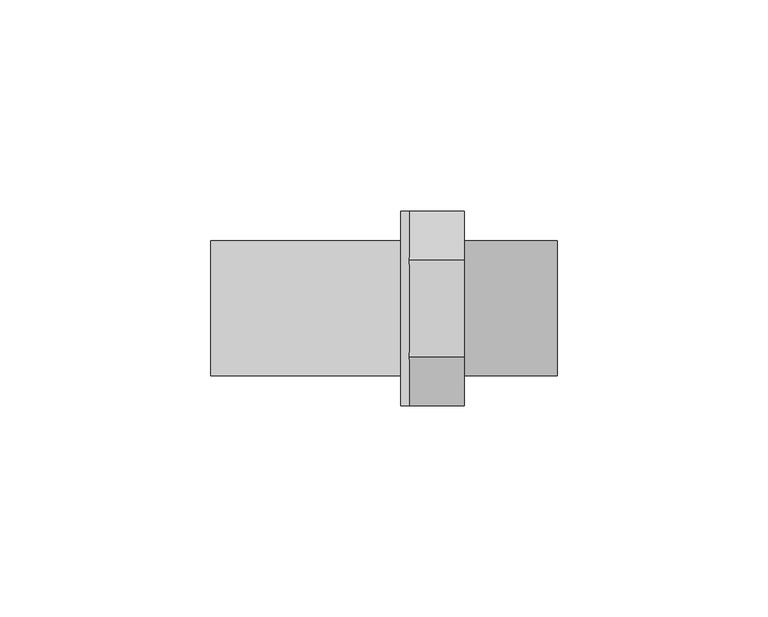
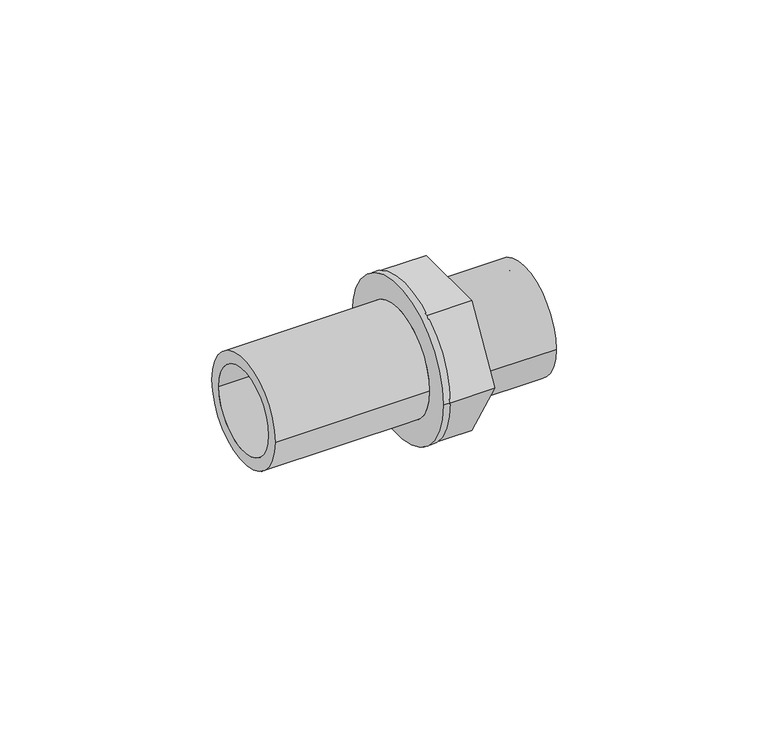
"""IFC4 building model written with IfcOpenShell, lengths in millimetres: pipe fitting geometry, 01011312 : Manguito tanque PVC."""

from ifc_helpers import new_model, si_unit, frame, origin, place, context, project, spatial, polyline, circle_curve, source, transform, mapped, element, save
from ifc_brep_helpers import plane_surface, cylinder_surface, revolved_surface, advanced_brep


def pipe_fitting_a3813f68(model_context):
    return source(origin(), model_context, "Body", "AdvancedBrep", [
        advanced_brep(
        [(19.0, -11.5470054, 20.0), (19.0, -23.0940108, 0.0), (19.0, -11.5470054, -20.0), (19.0, 11.5470054, -20.0), (19.0, 23.0940108, 0.0), (19.0, 11.5470054, 20.0), (19.0, -16.0, 0.0), (19.0, 16.0, 0.0), (19.0, 12.5, 0.0), (19.0, -12.5, 0.0), (6.0, -11.5470054, 20.0), (6.0, -23.0940108, 0.0), (6.0, -11.5470054, -20.0), (6.0, 11.5470054, -20.0), (6.0, 23.0940108, 0.0), (6.0, 11.5470054, 20.0), (41.0, -16.0, 0.0), (41.0, 16.0, 0.0), (41.0, -12.5, 0.0), (41.0, 12.5, 0.0), (-41.0, 16.0, 0.0), (-41.0, -16.0, 0.0), (-41.0, 12.5, 0.0), (-41.0, -12.5, 0.0), (4.0, -16.0, 0.0), (4.0, 16.0, 0.0), (4.0, -23.0940108, 0.0), (4.0, 23.0940108, 0.0), (4.0, -12.5, 0.0), (4.0, 12.5, 0.0)],
        [
            (0, 1),
            (1, 2),
            (2, 3),
            (3, 4),
            (4, 5),
            (5, 0),
            (6, 7, circle_curve(frame((19.0, 0.0, 0.0), z_axis=(-1.0, 0.0, 0.0), x_axis=(0.0, 1.0, 0.0)), 16.0)),
            (7, 6, circle_curve(frame((19.0, 0.0, 0.0), z_axis=(-1.0, 0.0, 0.0), x_axis=(0.0, 1.0, 0.0)), 16.0)),
            (8, 9, circle_curve(frame((19.0, 0.0, 0.0), z_axis=(1.0, 0.0, 0.0), x_axis=(0.0, 1.0, 0.0)), 12.5)),
            (9, 8, circle_curve(frame((19.0, 0.0, 0.0), z_axis=(1.0, 0.0, 0.0), x_axis=(0.0, 1.0, 0.0)), 12.5)),
            (0, 10),
            (10, 11),
            (11, 1),
            (11, 12),
            (12, 2),
            (12, 13),
            (13, 3),
            (13, 14),
            (14, 4),
            (14, 15),
            (15, 5),
            (15, 10),
            (16, 17, circle_curve(frame((41.0, 0.0, 0.0), z_axis=(1.0, 0.0, 0.0), x_axis=(0.0, 1.0, 0.0)), 16.0)),
            (17, 16, circle_curve(frame((41.0, 0.0, 0.0), z_axis=(1.0, 0.0, 0.0), x_axis=(0.0, 1.0, 0.0)), 16.0)),
            (18, 19, circle_curve(frame((41.0, 0.0, 0.0), z_axis=(-1.0, 0.0, 0.0), x_axis=(0.0, 1.0, 0.0)), 12.5)),
            (19, 18, circle_curve(frame((41.0, 0.0, 0.0), z_axis=(-1.0, 0.0, 0.0), x_axis=(0.0, 1.0, 0.0)), 12.5)),
            (17, 7),
            (6, 16),
            (20, 21, circle_curve(frame((-41.0, 0.0, 0.0), z_axis=(-1.0, 0.0, 0.0), x_axis=(0.0, -1.0, 0.0)), 16.0)),
            (21, 20, circle_curve(frame((-41.0, 0.0, 0.0), z_axis=(-1.0, 0.0, 0.0), x_axis=(0.0, -1.0, 0.0)), 16.0)),
            (22, 23, circle_curve(frame((-41.0, 0.0, 0.0), z_axis=(1.0, 0.0, 0.0), x_axis=(0.0, -1.0, 0.0)), 12.5)),
            (23, 22, circle_curve(frame((-41.0, 0.0, 0.0), z_axis=(1.0, 0.0, 0.0), x_axis=(0.0, -1.0, 0.0)), 12.5)),
            (21, 24),
            (24, 25, circle_curve(frame((4.0, 0.0, 0.0), z_axis=(-1.0, 0.0, 0.0), x_axis=(0.0, -1.0, 0.0)), 16.0)),
            (25, 20),
            (25, 24, circle_curve(frame((4.0, 0.0, 0.0), z_axis=(-1.0, 0.0, 0.0), x_axis=(0.0, -1.0, 0.0)), 16.0)),
            (10, 11, circle_curve(frame((6.0, 0.0, 0.0), z_axis=(1.0, 0.0, 0.0), x_axis=(0.0, 1.0, 0.0)), 23.0940108)),
            (14, 15, circle_curve(frame((6.0, 0.0, 0.0), z_axis=(1.0, 0.0, 0.0), x_axis=(0.0, 1.0, 0.0)), 23.0940108)),
            (15, 10, circle_curve(frame((6.0, 0.0, 0.0), z_axis=(1.0, 0.0, 0.0), x_axis=(0.0, 1.0, 0.0)), 23.0940108)),
            (13, 14, circle_curve(frame((6.0, 0.0, 0.0), z_axis=(1.0, 0.0, 0.0), x_axis=(0.0, 1.0, 0.0)), 23.0940108)),
            (11, 12, circle_curve(frame((6.0, 0.0, 0.0), z_axis=(1.0, 0.0, 0.0), x_axis=(0.0, 1.0, 0.0)), 23.0940108)),
            (12, 13, circle_curve(frame((6.0, 0.0, 0.0), z_axis=(1.0, 0.0, 0.0), x_axis=(0.0, 1.0, 0.0)), 23.0940108)),
            (26, 27, circle_curve(frame((4.0, 0.0, 0.0), z_axis=(-1.0, 0.0, 0.0), x_axis=(0.0, 1.0, 0.0)), 23.0940108)),
            (27, 26, circle_curve(frame((4.0, 0.0, 0.0), z_axis=(-1.0, 0.0, 0.0), x_axis=(0.0, 1.0, 0.0)), 23.0940108)),
            (28, 29, circle_curve(frame((4.0, 0.0, 0.0), z_axis=(-1.0, 0.0, 0.0), x_axis=(0.0, -1.0, 0.0)), 12.5)),
            (29, 28, circle_curve(frame((4.0, 0.0, 0.0), z_axis=(-1.0, 0.0, 0.0), x_axis=(0.0, -1.0, 0.0)), 12.5)),
            (27, 14),
            (11, 26),
            (18, 9),
            (8, 19),
            (22, 29),
            (28, 23),
        ],
        [
            plane_surface(frame((19.0, -11.5470054, 20.0), z_axis=(1.0, 0.0, 0.0), x_axis=(0.0, -0.5000000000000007, -0.8660254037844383))),
            plane_surface(frame((19.0, -11.5470054, 20.0), z_axis=(0.0, -0.8660254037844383, 0.5000000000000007), x_axis=(-1.0, 0.0, 0.0))),
            plane_surface(frame((19.0, -23.0940108, 0.0), z_axis=(0.0, -0.8660254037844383, -0.5000000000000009), x_axis=(-1.0, 0.0, 0.0))),
            plane_surface(frame((19.0, -11.5470054, -20.0), z_axis=(0.0, 0.0, -1.0), x_axis=(-1.0, 0.0, 0.0))),
            plane_surface(frame((19.0, 11.5470054, -20.0), z_axis=(0.0, 0.8660254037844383, -0.5000000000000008), x_axis=(-1.0, 0.0, 0.0))),
            plane_surface(frame((19.0, 23.0940108, 0.0), z_axis=(0.0, 0.866025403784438, 0.5000000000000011), x_axis=(-1.0, 0.0, 0.0))),
            plane_surface(frame((19.0, 11.5470054, 20.0), z_axis=(0.0, 0.0, 1.0), x_axis=(-1.0, 0.0, 0.0))),
            plane_surface(frame((41.0, 0.0, 0.0), z_axis=(1.0, 0.0, 0.0), x_axis=(0.0, 0.0, 1.0))),
            cylinder_surface(frame((19.0, 0.0, 0.0), z_axis=(-1.0, 0.0, 0.0), x_axis=(0.0, 1.0, 0.0)), 16.0),
            plane_surface(frame((-41.0, 0.0, 0.0), z_axis=(-1.0, 0.0, 0.0), x_axis=(0.0, 0.0, 1.0))),
            cylinder_surface(frame((4.0, 0.0, 0.0), z_axis=(1.0, 0.0, 0.0), x_axis=(0.0, -1.0, 0.0)), 16.0),
            plane_surface(frame((6.0, 23.0940108, 0.0), z_axis=(1.0, 0.0, 0.0), x_axis=(0.0, 0.0, 1.0))),
            plane_surface(frame((4.0, 23.0940108, 0.0), z_axis=(-1.0, 0.0, 0.0), x_axis=(0.0, 0.0, -1.0))),
            cylinder_surface(frame((4.0, 0.0, 0.0), z_axis=(1.0, 0.0, 0.0), x_axis=(0.0, 1.0, 0.0)), 23.0940108),
            revolved_surface(polyline([(41.0, 12.5, 0.0), (19.0, 12.5, 0.0)]), (19.0, 0.0, 0.0), (1.0, 0.0, 0.0)),
            revolved_surface(polyline([(-41.0, -12.5, 0.0), (4.0, -12.5, 0.0)]), (4.0, 0.0, 0.0), (-1.0, 0.0, 0.0)),
        ],
        [
            (0, [[1, 2, 3, 4, 5, 6], [7, 8]]),
            (0, [[9, 10]]),
            (1, [[-1, 11, 12, 13]]),
            (2, [[-2, -13, 14, 15]]),
            (3, [[-3, -15, 16, 17]]),
            (4, [[-4, -17, 18, 19]]),
            (5, [[-5, -19, 20, 21]]),
            (6, [[-6, -21, 22, -11]]),
            (7, [[23, 24], [25, 26]]),
            (8, [[-24, 27, -7, 28]]),
            (8, [[-23, -28, -8, -27]]),
            (9, [[29, 30], [31, 32]]),
            (10, [[-30, 33, 34, 35]]),
            (10, [[-29, -35, 36, -33]]),
            (11, [[37, -12]]),
            (11, [[38, -20]]),
            (11, [[39, -22]]),
            (11, [[40, -18]]),
            (11, [[41, -14]]),
            (11, [[42, -16]]),
            (12, [[43, 44], [-34, -36]]),
            (12, [[45, 46]]),
            (13, [[-44, 47, -40, -42, -41, 48]]),
            (13, [[-43, -48, -37, -39, -38, -47]]),
            (14, [[-25, 49, -9, 50]]),
            (14, [[-26, -50, -10, -49]]),
            (15, [[-31, 51, -45, 52]]),
            (15, [[-32, -52, -46, -51]]),
        ],
    ),
    ])


if __name__ == "__main__":
    model = new_model("IFC4")
    model_context = context("Model", 3, world=origin())
    ifc_project = project(units=[si_unit("LENGTHUNIT", "METRE", prefix="MILLI")], contexts=[model_context])
    site = spatial("IfcSite", under=ifc_project)
    building = spatial("IfcBuilding", under=site)
    placement = place(None, origin())
    pipe_fitting_shape = pipe_fitting_a3813f68(model_context)
    element("IfcPipeFitting", 1, ObjectType="01011312 : Manguito tanque PVC", at=placement, inside=building, context=model_context, shape_type="MappedRepresentation", body=[
        mapped(pipe_fitting_shape, transform((0.0, 0.0, 0.0), x_axis=(1.0, 0.0, 0.0), y_axis=(0.0, 1.0, 0.0), z_axis=(0.0, 0.0, 1.0))),
    ])
    save(model, "model.ifc")
